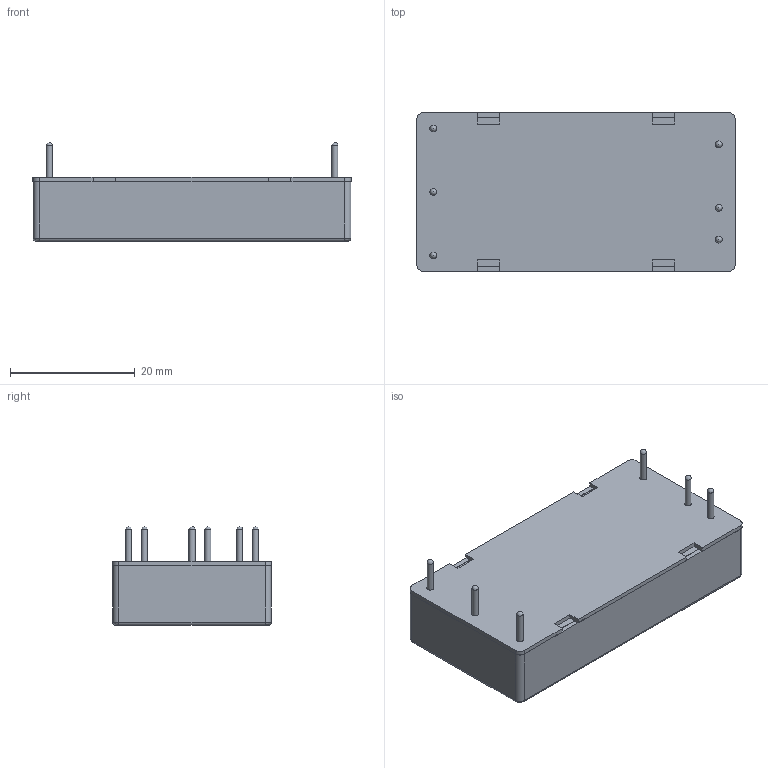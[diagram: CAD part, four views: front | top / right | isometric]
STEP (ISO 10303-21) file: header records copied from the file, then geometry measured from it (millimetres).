
FILE_DESCRIPTION(/* description */ (''),/* implementation_level */ '2;1');
FILE_NAME(/* name */ 'C:\Users\CALLIOPE\Documents\Inventor\專案部\MKWI50(高志明)\3D尺寸外觀\型錄用-STEP檔\MKW40(12V&48V)+MKWI40(48V).stp',/* time_stamp */ '2015-03-13T11:20:32+08:00',/* author */ ('CALLIOPE'),/* organization */ (''),/* preprocessor_version */ 'ST-DEVELOPER v15.6',/* originating_system */ 'Autodesk Inventor 2015',/* authorisation */ '');
FILE_SCHEMA (('AUTOMOTIVE_DESIGN { 1 0 10303 214 3 1 1 }'));
Length unit declared in the file: millimetre
Products named in the file (3): MKW40 CASE; MKW40 PIN; MKW40(12V&48V)+MKWI40(48V)
Assembly tree (2 placements, depth 2):
  MKW40(12V&48V)+MKWI40(48V)
    MKW40 CASE
    MKW40 PIN
Bounding box: 50.95 x 25.45 x 15.8 mm (x, y, z)
Volume: 2204 mm3; surface area: 8136.2 mm2
Topology: 7 solids, 7 shells, 112 faces, 280 edges, 170 vertices
Faces by surface type: plane 66, cylinder 32, sphere 10, bspline 4
Full cylindrical faces by diameter (mm): 1 x6, 1.1 x6
Entity records: 3220 total; most frequent: CARTESIAN_POINT 565, DIRECTION 546, ORIENTED_EDGE 504, EDGE_CURVE 252, LINE 184, VECTOR 184, AXIS2_PLACEMENT_3D 181, VERTEX_POINT 164
